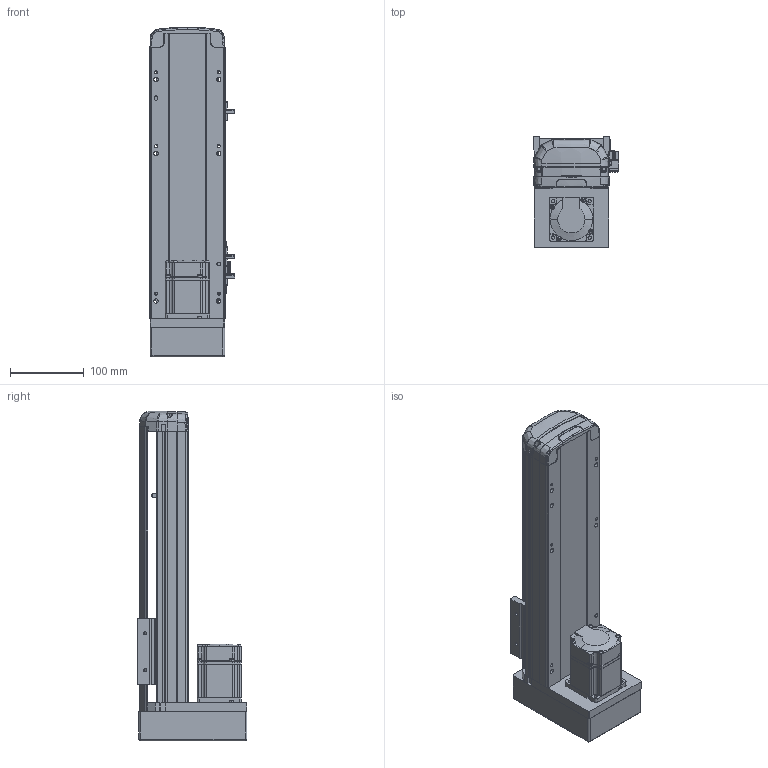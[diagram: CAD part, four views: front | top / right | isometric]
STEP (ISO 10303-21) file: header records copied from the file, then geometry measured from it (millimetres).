
FILE_DESCRIPTION (( 'STEP AP214' ), '1' );
FILE_NAME ('RTH10-XX-200-M-M20-C4.STEP', '2025-10-25T04:03:39', ( 'Microsoft' ), ( 'Microsoft' ), 'SwSTEP 2.0', 'SolidWorks 2018', '' );
FILE_SCHEMA (( 'AUTOMOTIVE_DESIGN' ));
Length unit declared in the file: millimetre
Products named in the file (10): N_RTH13-L-012覜茼え俋离^RTH10-XX-XX-M-M20-C4; N_OMRON EE-SX672 传感器^RTH10-XX-XX-M-M20-C4; N_RTH12-M-007P-奻裔^RTH10-XX-XX-M-M20-C4; N_RTH12-M-011P-臏倰第菁釱^RTH10-XX-XX-M-M20-C4; N_200W-1^RTH10-XX-XX-M-M20-C4; N_RTH12-M-018-裔赽^RTH10-XX-XX-M-M20-C4; N_RTH12-GY-004-賑釱^RTH10-XX-XX-M-M20-C4; N_RTH12-GY-001P^RTH10-XX-XX-M-M20-C4; RTH10-XX-200-M-M20-C4; N_RTH12-M-008-萇儂啣^RTH10-XX-XX-M-M20-C4
Assembly tree (11 placements, depth 2):
  RTH10-XX-200-M-M20-C4
    N_RTH12-M-011P-臏倰第菁釱^RTH10-XX-XX-M-M20-C4
    N_RTH13-L-012覜茼え俋离^RTH10-XX-XX-M-M20-C4
    N_OMRON EE-SX672 传感器^RTH10-XX-XX-M-M20-C4  x3
    N_200W-1^RTH10-XX-XX-M-M20-C4
    N_RTH12-M-007P-奻裔^RTH10-XX-XX-M-M20-C4
    N_RTH12-M-008-萇儂啣^RTH10-XX-XX-M-M20-C4
    N_RTH12-M-018-裔赽^RTH10-XX-XX-M-M20-C4
    N_RTH12-GY-004-賑釱^RTH10-XX-XX-M-M20-C4
    N_RTH12-GY-001P^RTH10-XX-XX-M-M20-C4
Bounding box: 116.5 x 149 x 447.31 mm (x, y, z)
Volume: 2608723.8 mm3; surface area: 395449.9 mm2
Topology: 10 solids, 12 shells, 1949 faces, 5416 edges, 3555 vertices
Faces by surface type: plane 983, bspline 472, cylinder 459, cone 29, sphere 4, torus 2
Entity records: 58302 total; most frequent: CARTESIAN_POINT 23011, ORIENTED_EDGE 7904, DIRECTION 6086, EDGE_CURVE 3958, VERTEX_POINT 2599, LINE 2146, VECTOR 2146, AXIS2_PLACEMENT_3D 1970
